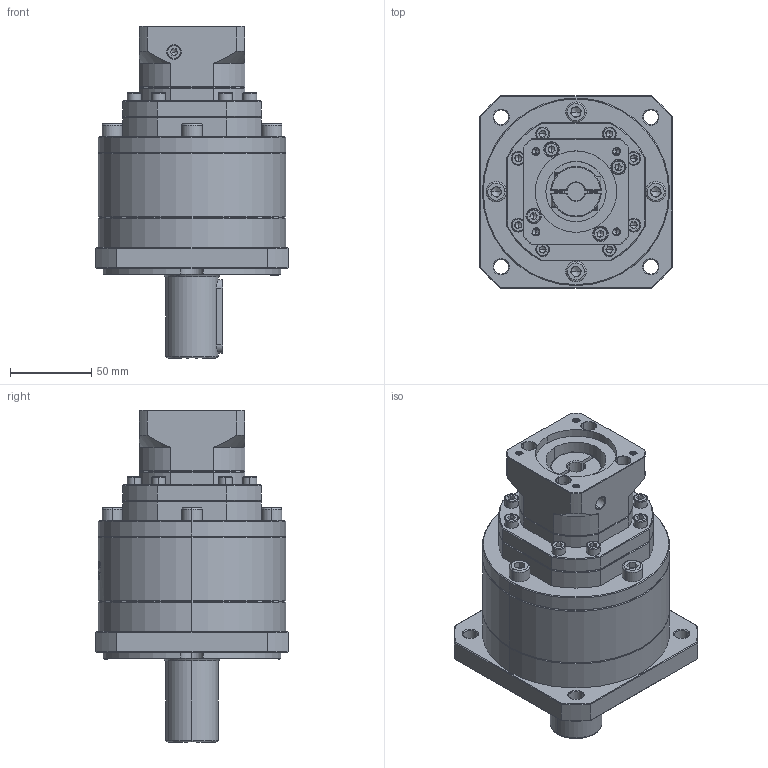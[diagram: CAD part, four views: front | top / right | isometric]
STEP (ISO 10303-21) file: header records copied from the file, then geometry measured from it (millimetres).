
FILE_DESCRIPTION (( 'STEP AP214' ), '1' );
FILE_NAME ('ZF120A-D32-L3-P2-11-50-70-M5.step', '2023-08-27T06:30:32', ( '' ), ( '' ), 'SwSTEP 2.0', 'SolidWorks 2016', '' );
FILE_SCHEMA (( 'AUTOMOTIVE_DESIGN' ));
Length unit declared in the file: millimetre
Products named in the file (1): ZF120A-D32-L3-P2-11-50-70-M5
Bounding box: 118 x 118 x 204 mm (x, y, z)
Volume: 1226062.5 mm3; surface area: 118006.6 mm2
Topology: 7 solids, 7 shells, 2358 faces, 6279 edges, 4031 vertices
Faces by surface type: plane 1179, bspline 435, cylinder 423, cone 299, torus 22
Entity records: 125894 total; most frequent: CARTESIAN_POINT 46666, ORIENTED_EDGE 12450, DIRECTION 9232, EDGE_CURVE 6225, VERTEX_POINT 4031, LINE 3334, VECTOR 3334, AXIS2_PLACEMENT_3D 2949
